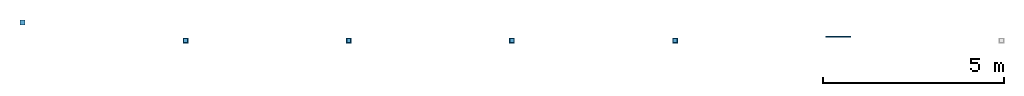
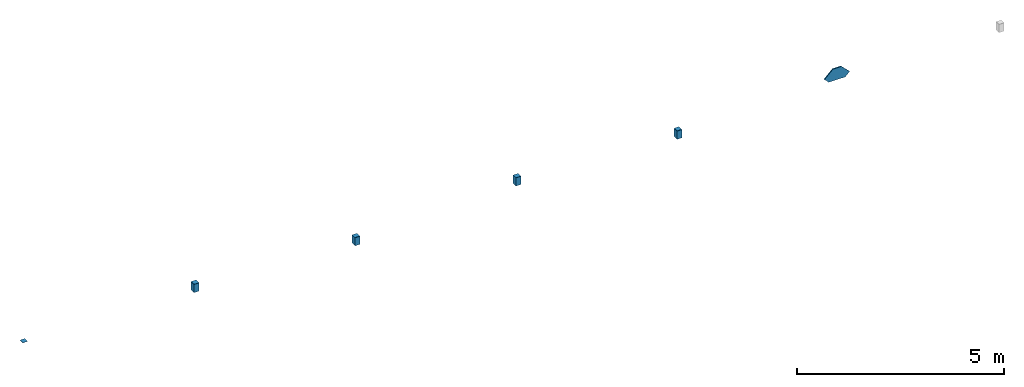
# One storey, part 1 of 2: 10 columns.
"""IFC2X3 building model written with IfcOpenShell, lengths in millimetres."""

from ifc_helpers import new_model, entity, si_unit, converted_unit, derived_unit, direction, frame, origin_with_axes, place, context, subcontext, project, spatial, faceted_brep, material, type_object, element, save


model = new_model("IFC2X3")

# Units and contexts
model_context = context("Model", 3, precision=0.01, world=frame((0.0, 4.29681676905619e-09, 0.0)), true_north=direction((4.01073788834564e-13, 1.0)))
plan_context = context("Plan", 3, precision=0.01, world=frame((0.0, 4.29681676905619e-09, 0.0)), true_north=direction((4.01073788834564e-13, 1.0)))
body_context = subcontext(model_context, "Body", "Model", "MODEL_VIEW")
ifc_project = project(units=[converted_unit("PLANEANGLEUNIT", "DEGREE", entity("IfcPositiveLengthMeasure", 0.0174532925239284), si_unit("PLANEANGLEUNIT", "RADIAN"), dimensions=[0, 0, 0, 0, 0, 0, 0]), si_unit("AREAUNIT", "SQUARE_METRE"), si_unit("LENGTHUNIT", "METRE", prefix="MILLI"), si_unit("MASSUNIT", "GRAM", prefix="KILO"), si_unit("POWERUNIT", "WATT"), si_unit("PRESSUREUNIT", "PASCAL", prefix="KILO"), si_unit("FORCEUNIT", "NEWTON", prefix="KILO"), si_unit("ELECTRICVOLTAGEUNIT", "VOLT"), si_unit("ELECTRICCURRENTUNIT", "AMPERE"), si_unit("THERMODYNAMICTEMPERATUREUNIT", "DEGREE_CELSIUS"), si_unit("TIMEUNIT", "SECOND"), si_unit("VOLUMEUNIT", "CUBIC_METRE"), derived_unit("LINEARVELOCITYUNIT", [(si_unit("LENGTHUNIT", "METRE"), 1), (si_unit("TIMEUNIT", "SECOND"), -1)]), derived_unit("VOLUMETRICFLOWRATEUNIT", [(si_unit("VOLUMEUNIT", "CUBIC_METRE"), 1), (si_unit("TIMEUNIT", "SECOND"), -1)]), derived_unit("THERMALTRANSMITTANCEUNIT", [(si_unit("POWERUNIT", "WATT"), 1), (si_unit("THERMODYNAMICTEMPERATUREUNIT", "KELVIN"), -1), (si_unit("AREAUNIT", "SQUARE_METRE"), -1)]), derived_unit("SOUNDPRESSUREUNIT", [(si_unit("PRESSUREUNIT", "PASCAL"), 1)])], contexts=[model_context, plan_context])

# Site, building, storey
site_placement = place(None, frame((0.0, -4.29681676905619e-09, 0.0), z_axis=(0.0, 0.0, 1.0), x_axis=(1.0, 0.0, 0.0)))
site = spatial("IfcSite", under=ifc_project, at=site_placement, Name="Gardermoen", CompositionType="ELEMENT")
building_placement = place(site_placement, frame((0.0, 4.29681676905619e-09, 0.0), z_axis=(0.0, 0.0, 1.0), x_axis=(1.0, 0.0, 0.0)))
building = spatial("IfcBuilding", under=site, at=building_placement, Name="TG", CompositionType="ELEMENT")
storey_placement = place(building_placement, origin_with_axes())
storey = spatial("IfcBuildingStorey", under=building, at=storey_placement, Name="D", CompositionType="ELEMENT", Elevation=0.0)

# Columns
ifc_material_1 = material(Name="STEEL/S355J0")
column_type_1 = type_object("IfcColumnType", Name="PL5*134", PredefinedType="NOTDEFINED")
for number, where, z_axis, x_axis in (
    (1, (322000.0, 459292.0, 209307.5), (-1.0, 0.0, 0.0), (0.0, -1.0, 0.0)),
    (2, (340067.0, 458725.0, 209567.5), (0.0, 1.0, 0.0), (-1.0, 0.0, 0.0)),
    (3, (331067.0, 458725.0, 209567.5), (0.0, 1.0, 0.0), (-1.0, 0.0, 0.0)),
    (4, (335567.000010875, 458725.0, 209762.5), (0.0, 1.0, 0.0), (-1.0, 0.0, 0.0)),
    (5, (326567.000010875, 458725.0, 209762.5), (0.0, 1.0, 0.0), (-1.0, 0.0, 0.0)),
):
    element("IfcColumn", number, at=place(storey_placement, frame(where, z_axis=z_axis, x_axis=x_axis)), inside=storey, type_object=column_type_1, material=ifc_material_1, Name="STÅLSØYLE", ObjectType="PL5*134", context=body_context, shape_type="Brep", body=[
        faceted_brep([(0.0, 2.5, -67.0), (0.0, 2.5, 67.0), (134.0, 2.5, 67.0), (134.0, 2.5, -67.0), (0.0, -2.5, 67.0), (134.0, -2.5, 67.0), (0.0, -2.5, -67.0), (134.0, -2.5, -67.0)], [[[0, 1, 2, 3]], [[1, 4, 5, 2]], [[4, 6, 7, 5]], [[6, 0, 3, 7]], [[5, 7, 3, 2]], [[6, 4, 1, 0]]]),
    ])
ifc_material_2 = material(Name="STEEL/S355")
column_type_2 = type_object("IfcColumnType", Name="RHS140*10", PredefinedType="NOTDEFINED")
for number, where, z_axis, x_axis in (
    (6, (340000.0, 458725.0, 209325.01), (-1.0, 0.0, 0.0), (0.0, 0.0, 1.0)),
    (7, (331000.0, 458725.0, 209325.01), (-1.0, 0.0, 0.0), (0.0, 0.0, 1.0)),
    (8, (335500.000010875, 458725.0, 209520.01), (-1.0, 0.0, 0.0), (0.0, 0.0, 1.0)),
    (9, (326500.000010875, 458725.0, 209520.01), (-1.0, 0.0, 0.0), (0.0, 0.0, 1.0)),
):
    element("IfcColumn", number, at=place(storey_placement, frame(where, z_axis=z_axis, x_axis=x_axis)), inside=storey, type_object=column_type_2, material=ifc_material_2, Name="STÅLSØYLE", ObjectType="RHS140*10", context=body_context, shape_type="Brep", body=[
        faceted_brep([(0.0, 60.0, -60.0), (0.0, -60.0, -60.0), (239.989999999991, -60.0, -60.0), (239.989999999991, 60.0, -60.0), (0.0, -60.0, 60.0), (239.989999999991, -60.0, 60.0), (0.0, 60.0, 60.0), (239.989999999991, 60.0, 60.0), (1.16415321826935e-10, 70.0, -69.9999999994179), (-5.82076609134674e-11, 70.0, 69.9999999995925), (239.989999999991, 70.0, 70.0), (239.989999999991, 70.0, -70.0), (0.0, -70.0, 70.0), (239.989999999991, -70.0, 70.0), (1.16415321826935e-10, -70.0, -69.9999999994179), (239.989999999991, -70.0, -70.0)], [[[0, 1, 2, 3]], [[1, 4, 5, 2]], [[4, 6, 7, 5]], [[6, 0, 3, 7]], [[8, 9, 10, 11]], [[9, 12, 13, 10]], [[12, 14, 15, 13]], [[14, 8, 11, 15]], [[13, 15, 11, 10], [5, 7, 3, 2]], [[14, 12, 9, 8], [6, 4, 1, 0]]]),
    ])
column_type_3 = type_object("IfcColumnType", Name="PL30*345", PredefinedType="NOTDEFINED")
column_placement = place(storey_placement, frame((344620.00078, 458835.0, 209734.999672), z_axis=(0.0, 0.0, -1.0), x_axis=(-1.0, 0.0, 0.0)))
element("IfcColumn", 10, at=column_placement, inside=storey, type_object=column_type_3, material=ifc_material_2, Name="STÅLDIAGONAL", ObjectType="PL30*345", context=body_context, shape_type="Brep", body=[
    faceted_brep([(5.82076609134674e-11, -14.9999999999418, -4.07453626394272e-10), (-230.0, -15.0, 225.0), (-230.0, 15.0, 225.0), (5.82076609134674e-11, 15.0000000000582, 4.07453626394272e-10), (-110.0, -15.0, 345.0), (-110.0, 15.0, 345.0), (350.0, -15.0, 345.0), (350.0, 15.0, 345.0), (470.0, -15.0, 225.0), (470.0, 15.0, 225.0), (240.0, -15.0, 0.0), (240.0, 15.0, 0.0)], [[[0, 1, 2, 3]], [[1, 4, 5, 2]], [[4, 6, 7, 5]], [[6, 8, 9, 7]], [[8, 10, 11, 9]], [[10, 0, 3, 11]], [[5, 7, 9, 11, 3, 2]], [[10, 8, 6, 4, 1, 0]]]),
])

save(model, "model.ifc")
